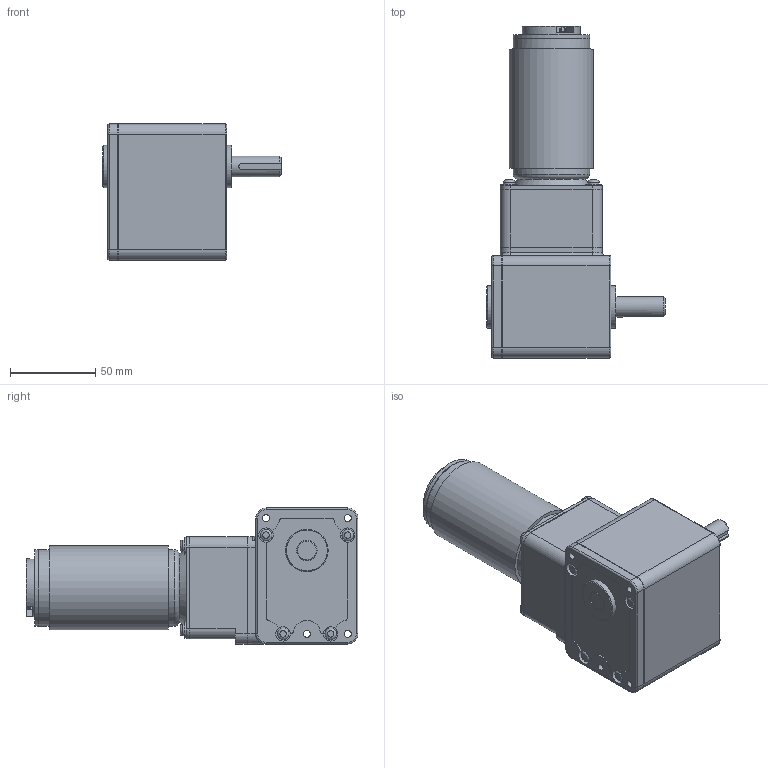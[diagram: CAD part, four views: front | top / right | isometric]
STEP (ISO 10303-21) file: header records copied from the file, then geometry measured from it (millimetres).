
FILE_DESCRIPTION((''),'2;1');
FILE_NAME('C:\Documents and Settings\SSEGAWA\デスクトップ\TP-4990A-SWL.STP','2013-07-29T17:47:54',('SSEGAWA'),(''),'Autodesk Inventor 2010','Autodesk Inventor 2010','');
FILE_SCHEMA(('CONFIG_CONTROL_DESIGN'));
Length unit declared in the file: millimetre
Products named in the file (1): tp_4990a_swl_Shrinkwrap_1
Bounding box: 105 x 195 x 80 mm (x, y, z)
Volume: 647518.4 mm3; surface area: 64997.9 mm2
Topology: 1 solids, 10 shells, 280 faces, 663 edges, 432 vertices
Faces by surface type: plane 119, cylinder 96, bspline 43, torus 18, cone 4
Full cylindrical faces by diameter (mm): 4 x1, 6 x1, 6.8 x8, 7 x3, 8.5 x4, 9 x1, 9.8 x4, 12 x2, 13 x1, 18 x2, 25 x1, 34 x1, 44.6 x1, 45 x2, 54 x1
Entity records: 8358 total; most frequent: CARTESIAN_POINT 1940, DIRECTION 1307, ORIENTED_EDGE 1132, EDGE_CURVE 566, AXIS2_PLACEMENT_3D 509, VERTEX_POINT 403, EDGE_LOOP 393, VECTOR 289
